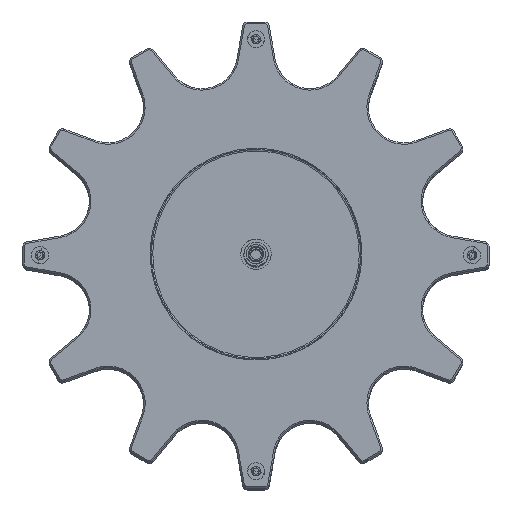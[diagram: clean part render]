
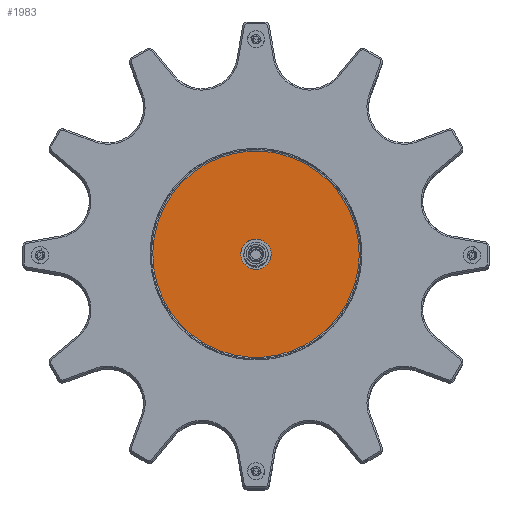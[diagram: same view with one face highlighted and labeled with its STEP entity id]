
A CAD part, top view. The second image highlights one B-rep face of the part: STEP entity #1983.
In plain terms, the highlighted planar face has unit normal (0, 0, 1).
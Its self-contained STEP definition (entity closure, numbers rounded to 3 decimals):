
#197=FACE_BOUND('',#5351,.T.);
#1983=ADVANCED_FACE('',(#3658,#197),#23532,.T.);
#3658=FACE_OUTER_BOUND('',#5350,.T.);
#5350=EDGE_LOOP('',(#12993,#12994));
#5351=EDGE_LOOP('',(#12995,#12996));
#12993=ORIENTED_EDGE('',*,*,#16822,.T.);
#12994=ORIENTED_EDGE('',*,*,#16801,.T.);
#12995=ORIENTED_EDGE('',*,*,#16797,.T.);
#12996=ORIENTED_EDGE('',*,*,#16823,.T.);
#16797=EDGE_CURVE('',#22854,#22855,#18079,.T.);
#16801=EDGE_CURVE('',#22859,#22860,#18081,.T.);
#16822=EDGE_CURVE('',#22860,#22859,#18098,.T.);
#16823=EDGE_CURVE('',#22855,#22854,#18099,.T.);
#18079=(
BOUNDED_CURVE()
B_SPLINE_CURVE(2,(#64215,#64216,#64217,#64218,#64219),.UNSPECIFIED.,.F.,
 .F.)
B_SPLINE_CURVE_WITH_KNOTS((3,2,3),(-31.416,-15.708,0.),
 .UNSPECIFIED.)
CURVE()
GEOMETRIC_REPRESENTATION_ITEM()
RATIONAL_B_SPLINE_CURVE((1.,0.707,1.,0.707,1.))
REPRESENTATION_ITEM('')
);
#18081=(
BOUNDED_CURVE()
B_SPLINE_CURVE(2,(#64229,#64230,#64231,#64232,#64233),.UNSPECIFIED.,.F.,
 .F.)
B_SPLINE_CURVE_WITH_KNOTS((3,2,3),(-214.571,-107.285,
0.),.UNSPECIFIED.)
CURVE()
GEOMETRIC_REPRESENTATION_ITEM()
RATIONAL_B_SPLINE_CURVE((1.,0.707,1.,0.707,1.))
REPRESENTATION_ITEM('')
);
#18098=(
BOUNDED_CURVE()
B_SPLINE_CURVE(2,(#64306,#64307,#64308,#64309,#64310),.UNSPECIFIED.,.F.,
 .F.)
B_SPLINE_CURVE_WITH_KNOTS((3,2,3),(-214.571,-107.285,
0.),.UNSPECIFIED.)
CURVE()
GEOMETRIC_REPRESENTATION_ITEM()
RATIONAL_B_SPLINE_CURVE((1.,0.707,1.,0.707,1.))
REPRESENTATION_ITEM('')
);
#18099=(
BOUNDED_CURVE()
B_SPLINE_CURVE(2,(#64311,#64312,#64313,#64314,#64315),.UNSPECIFIED.,.F.,
 .F.)
B_SPLINE_CURVE_WITH_KNOTS((3,2,3),(-31.416,-15.708,0.),
 .UNSPECIFIED.)
CURVE()
GEOMETRIC_REPRESENTATION_ITEM()
RATIONAL_B_SPLINE_CURVE((1.,0.707,1.,0.707,1.))
REPRESENTATION_ITEM('')
);
#22854=VERTEX_POINT('',#64197);
#22855=VERTEX_POINT('',#64198);
#22859=VERTEX_POINT('',#64202);
#22860=VERTEX_POINT('',#64203);
#23532=PLANE('',#25155);
#25155=AXIS2_PLACEMENT_3D('',#64178,#25819,$);
#25819=DIRECTION('',(0.,0.,1.));
#64178=CARTESIAN_POINT('',(-980.117,-91.197,1808.2));
#64197=CARTESIAN_POINT('',(-911.898,-6.098,1808.2));
#64198=CARTESIAN_POINT('',(-915.371,13.598,1808.2));
#64202=CARTESIAN_POINT('',(-980.897,-8.11,1808.2));
#64203=CARTESIAN_POINT('',(-846.372,15.61,1808.2));
#64215=CARTESIAN_POINT('',(-911.898,-6.098,1808.2));
#64216=CARTESIAN_POINT('',(-921.746,-7.835,1808.2));
#64217=CARTESIAN_POINT('',(-923.482,2.014,1808.2));
#64218=CARTESIAN_POINT('',(-925.219,11.862,1808.2));
#64219=CARTESIAN_POINT('',(-915.371,13.598,1808.2));
#64229=CARTESIAN_POINT('',(-980.897,-8.11,1808.2));
#64230=CARTESIAN_POINT('',(-969.036,-75.373,1808.2));
#64231=CARTESIAN_POINT('',(-901.774,-63.512,1808.2));
#64232=CARTESIAN_POINT('',(-834.512,-51.652,1808.2));
#64233=CARTESIAN_POINT('',(-846.372,15.61,1808.2));
#64306=CARTESIAN_POINT('',(-846.372,15.61,1808.2));
#64307=CARTESIAN_POINT('',(-858.232,82.873,1808.2));
#64308=CARTESIAN_POINT('',(-925.494,71.012,1808.2));
#64309=CARTESIAN_POINT('',(-992.757,59.152,1808.2));
#64310=CARTESIAN_POINT('',(-980.897,-8.11,1808.2));
#64311=CARTESIAN_POINT('',(-915.371,13.598,1808.2));
#64312=CARTESIAN_POINT('',(-905.523,15.335,1808.2));
#64313=CARTESIAN_POINT('',(-903.786,5.486,1808.2));
#64314=CARTESIAN_POINT('',(-902.05,-4.362,1808.2));
#64315=CARTESIAN_POINT('',(-911.898,-6.098,1808.2));
